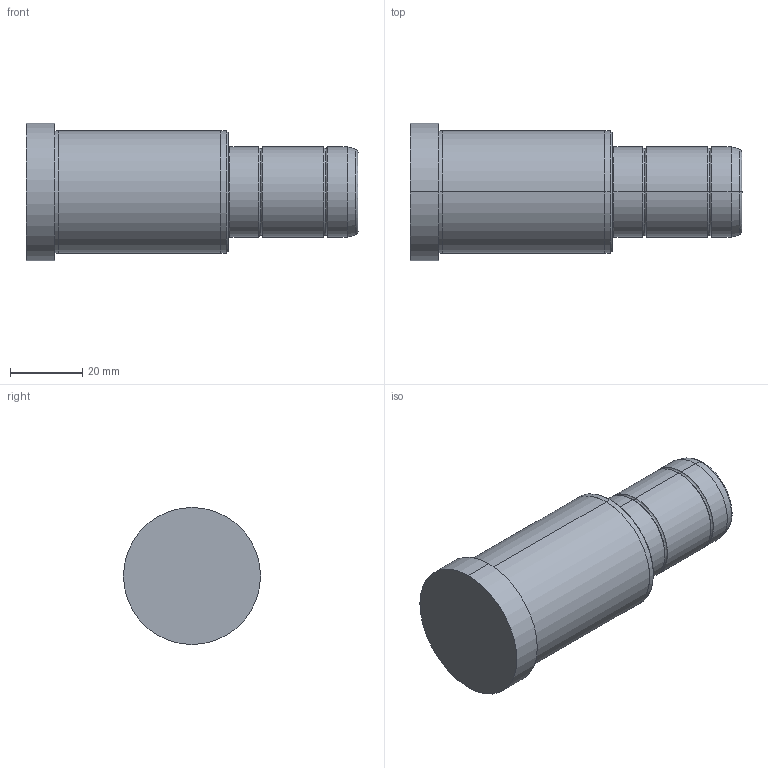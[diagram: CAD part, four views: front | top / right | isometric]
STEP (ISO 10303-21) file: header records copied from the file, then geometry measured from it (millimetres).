
FILE_DESCRIPTION( ( 'STEP AP203' ), '1' );
FILE_NAME( 'C:/Projects/D02 - 25x56x36.step', '2002-12-31T22:27:27', ( ' ' ), ( ' ' ), 'XStep 1.0', ' ', ' ' );
FILE_SCHEMA( ( 'CONFIG_CONTROL_DESIGN' ) );
Length unit declared in the file: metre
Products named in the file (1): 1
Bounding box: 92 x 38 x 38 mm (x, y, z)
Volume: 70202.1 mm3; surface area: 11140.3 mm2
Topology: 1 solids, 1 shells, 36 faces, 70 edges, 40 vertices
Faces by surface type: bspline 18, revolution 18
Entity records: 1127 total; most frequent: CARTESIAN_POINT 417, ORIENTED_EDGE 140, DIRECTION 118, EDGE_CURVE 70, AXIS2_PLACEMENT_3D 41, EDGE_LOOP 40, VERTEX_POINT 40, CIRCLE 40
